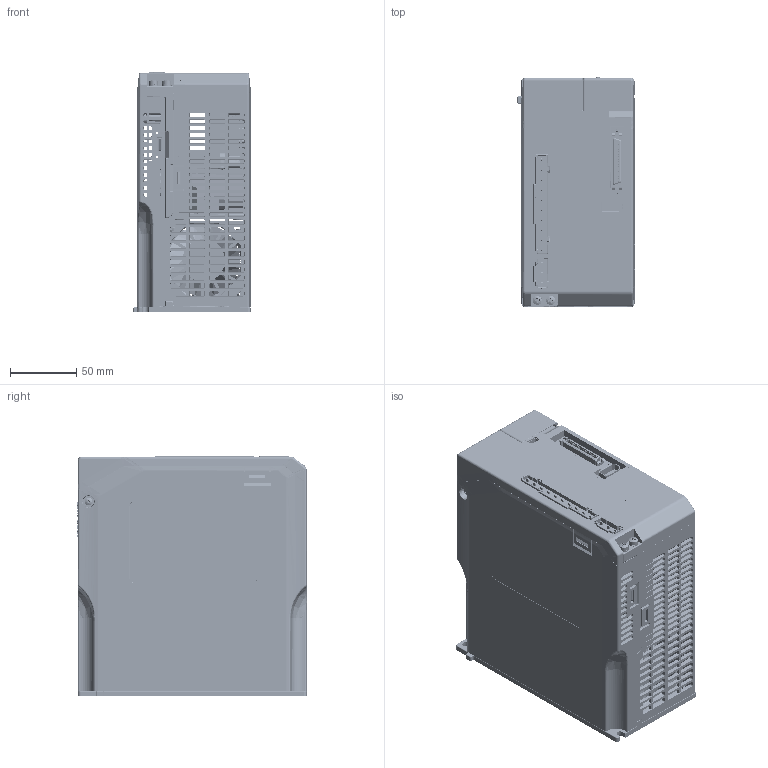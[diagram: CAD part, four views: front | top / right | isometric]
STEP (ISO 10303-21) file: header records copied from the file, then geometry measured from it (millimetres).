
FILE_DESCRIPTION (( 'STEP AP203' ), '1' );
FILE_NAME ('400VAC ,Rated power:2kW~3KW CanOPEN.STEP', '2024-09-10T08:49:20', ( '' ), ( '' ), 'SwSTEP 2.0', 'SolidWorks 2022', '' );
FILE_SCHEMA (( 'CONFIG_CONTROL_DESIGN' ));
Products named in the file (1): 400VAC ，Rated power：2kW~3KW CanOPEN
Bounding box: 88 x 172.3 x 181 mm (x, y, z)
Volume: 810369.6 mm3; surface area: 652532.7 mm2
Topology: 82 solids, 172 shells, 14394 faces, 38744 edges, 24944 vertices
Faces by surface type: plane 8170, cylinder 3531, bspline 1988, cone 705
Entity records: 496552 total; most frequent: CARTESIAN_POINT 151904, ORIENTED_EDGE 77012, DIRECTION 63486, EDGE_CURVE 38506, VECTOR 25560, LINE 25560, VERTEX_POINT 24946, AXIS2_PLACEMENT_3D 18963
